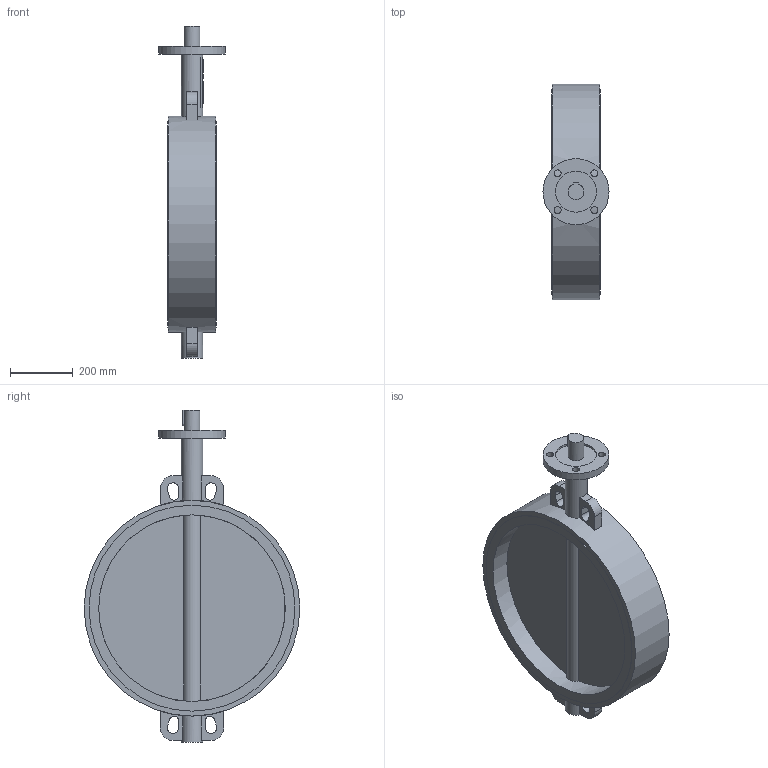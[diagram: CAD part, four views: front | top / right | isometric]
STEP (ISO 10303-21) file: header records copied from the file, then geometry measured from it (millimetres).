
FILE_DESCRIPTION(('STEP AP203'), '1');
FILE_NAME('Çàòâîð 017W.Z(ñòàëü) DN600 PN10_16 áåç èñï. ìåõ-ìà', '', ('UNSPECIFIED'), ('UNSPECIFIED'), 'ASCON STEP Converter 1.6', 'ASCON Math Kernel', '');
FILE_SCHEMA(('CONFIG_CONTROL_DESIGN'));
Length unit declared in the file: millimetre
Bounding box: 210 x 685 x 1054.2 mm (x, y, z)
Volume: 24980755.1 mm3; surface area: 1520906.5 mm2
Topology: 1 solids, 1 shells, 759 faces, 2182 edges, 1454 vertices
Faces by surface type: cylinder 581, plane 178
Full cylindrical faces by diameter (mm): 22 x4, 50.7 x1, 68 x2, 130 x1, 210 x1, 592.5 x2, 654 x2, 685 x1
Entity records: 32126 total; most frequent: CARTESIAN_POINT 4957, DIRECTION 4855, ORIENTED_EDGE 4336, EDGE_CURVE 2168, AXIS2_PLACEMENT_3D 1937, VERTEX_POINT 1454, CIRCLE 1177, LINE 981
